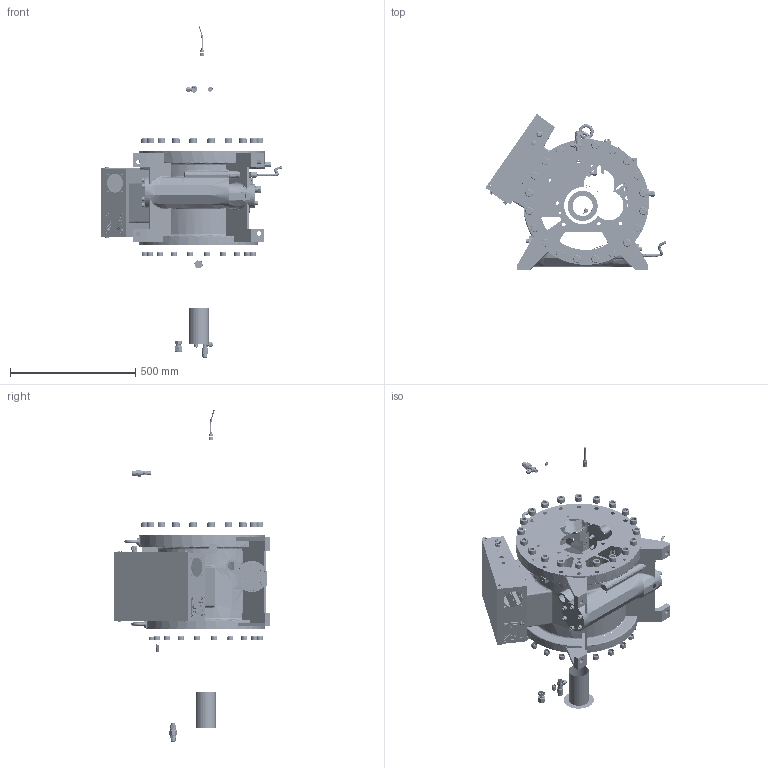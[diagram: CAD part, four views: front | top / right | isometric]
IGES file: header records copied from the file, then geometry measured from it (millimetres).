
Start section: SolidWorks IGES file using analytic representation for surfaces
Global section: file name: \\Datacenterrd1\@研發部\設計一課(冷媒)\(1)-文管中心\(2)-3D文管\(8)-Compressor 3Doutline(Surface)\RC2\RC2-BF\IGS\RC2-320BF outline.IGS; native system: SolidWorks 2013; preprocessor: SolidWorks 2013; author: hedylu; date: 141226.140208; units: centimetre
Bounding box: 721.48 x 622.75 x 1322.94 mm (x, y, z)
Surface area: 2463872.5 mm2 (no closed solid volume)
Topology: 0 solids, 0 shells, 2323 faces, 47064 edges, 47048 vertices
Faces by surface type: bspline 1558, revolution 765
